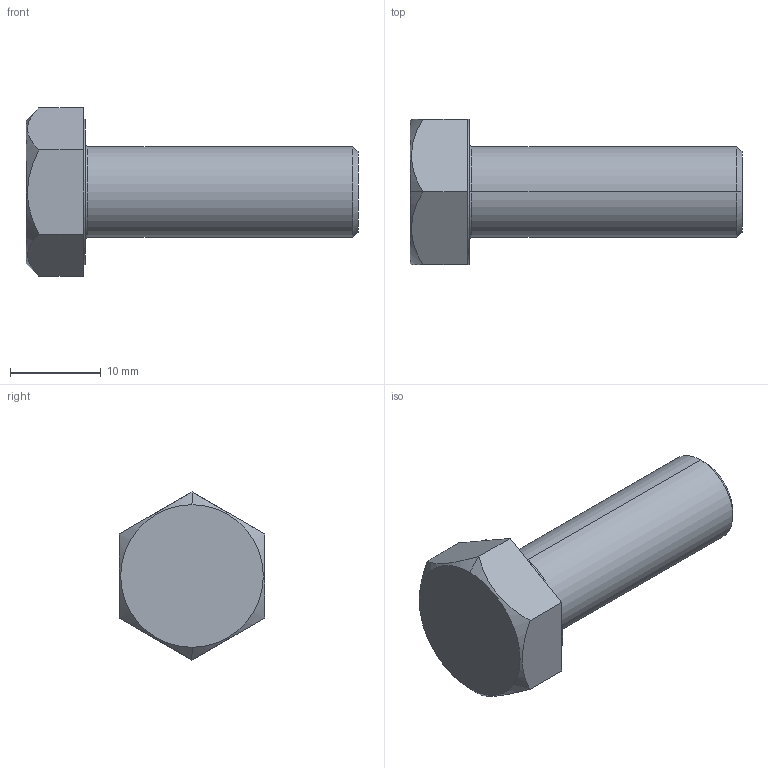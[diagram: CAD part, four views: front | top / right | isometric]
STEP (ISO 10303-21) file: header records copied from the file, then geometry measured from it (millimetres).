
FILE_DESCRIPTION (( 'STEP AP203' ), '1' );
FILE_NAME ('LGN-TD-M10x30.STEP', '2026-08-14T04:44:59', ( '' ), ( '' ), 'SwSTEP 2.0', 'SolidWorks 2020', '' );
FILE_SCHEMA (( 'CONFIG_CONTROL_DESIGN' ));
Length unit declared in the file: millimetre
Products named in the file (1): LGN-TD-M10x30
Bounding box: 36.5 x 16 x 18.48 mm (x, y, z)
Volume: 3776.6 mm3; surface area: 1709 mm2
Topology: 1 solids, 1 shells, 25 faces, 54 edges, 32 vertices
Faces by surface type: plane 15, cone 4, cylinder 4, torus 2
Entity records: 811 total; most frequent: CARTESIAN_POINT 184, DIRECTION 122, ORIENTED_EDGE 108, EDGE_CURVE 54, AXIS2_PLACEMENT_3D 48, VERTEX_POINT 32, VECTOR 26, LINE 26
